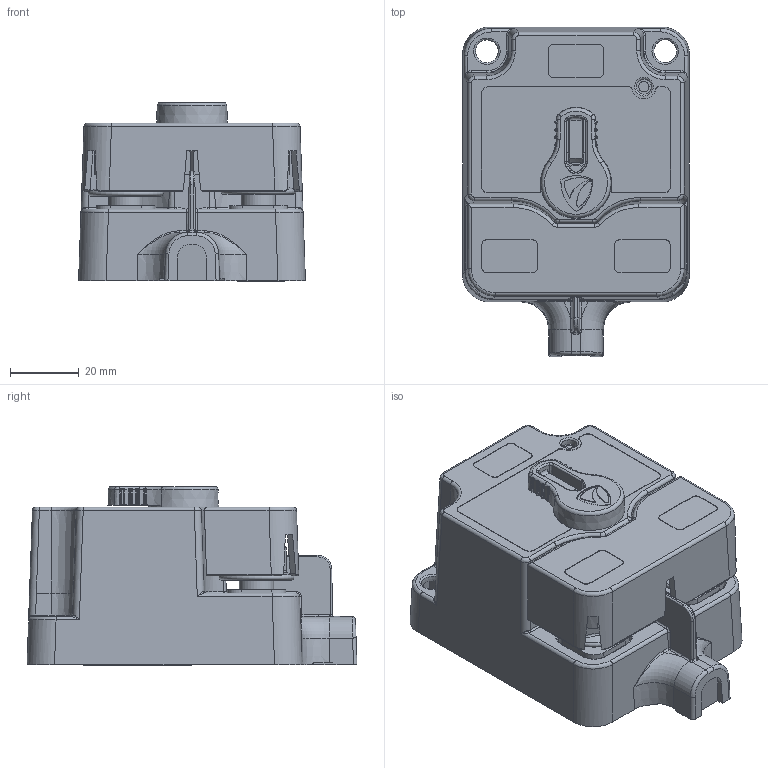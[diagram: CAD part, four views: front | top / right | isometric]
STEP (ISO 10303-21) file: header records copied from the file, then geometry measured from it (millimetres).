
FILE_DESCRIPTION(/* description */ ('STEP AP242','CAx-IF Rec.Pracs.---Representation and Presentation of Product Manufacturing Information (PMI)---4.0---2014-10-13','CAx-IF Rec.Pracs.---3D Tessellated Geometry---0.4---2014-09-14','2;1'),/* implementation_level */ '2;1');
FILE_NAME(/* name */ '61973d68760b5b716f8d65f4',/* time_stamp */ '2021-11-19T06:00:11+00:00',/* author */ (''),/* organization */ (''),/* preprocessor_version */ 'ST-DEVELOPER v18.1',/* originating_system */ ' ',/* authorisation */ ' ');
FILE_SCHEMA (('AP242_MANAGED_MODEL_BASED_3D_ENGINEERING_MIM_LF { 1 0 10303 442 1 1 4 }'));
Length unit declared in the file: metre
Products named in the file (4): XD Single Housing w-Knob; M10 Flange Nut; XD Relay Single Term Cvr
Bounding box: 66 x 96 x 52.05 mm (x, y, z)
Volume: 198965.4 mm3; surface area: 46609.4 mm2
Topology: 4 solids, 11 shells, 1513 faces, 3975 edges, 2476 vertices
Faces by surface type: plane 581, cone 290, bspline 284, cylinder 261, torus 74, sphere 23
Full cylindrical faces by diameter (mm): 3 x1, 8.376 x2, 10 x2
Entity records: 48994 total; most frequent: CARTESIAN_POINT 13530, ORIENTED_EDGE 7810, DIRECTION 6911, EDGE_CURVE 3905, AXIS2_PLACEMENT_3D 2592, VERTEX_POINT 2467, LINE 1727, VECTOR 1727
